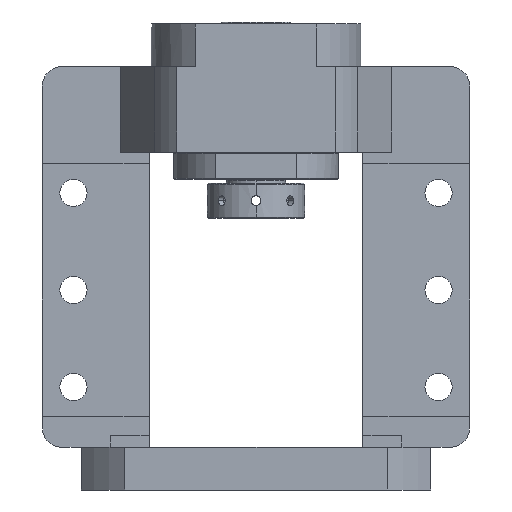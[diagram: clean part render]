
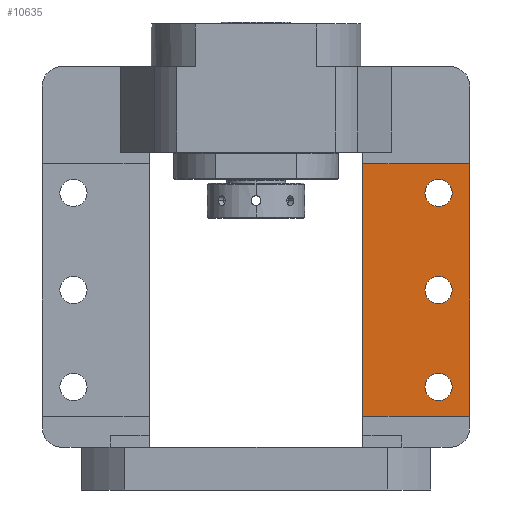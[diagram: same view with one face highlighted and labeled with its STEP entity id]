
A CAD part, front view. The second image highlights one B-rep face of the part: STEP entity #10635.
In plain terms, the highlighted planar face has unit normal (0, -1, 0).
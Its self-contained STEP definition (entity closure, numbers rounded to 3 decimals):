
#225 = EDGE_CURVE ( 'NONE', #4037, #6419, #10397, .T. ) ;
#315 = DIRECTION ( 'NONE',  ( 0., -1., 0. ) ) ;
#774 = CARTESIAN_POINT ( 'NONE',  ( 94., 0., 53. ) ) ;
#1093 = FACE_BOUND ( 'NONE', #3105, .T. ) ;
#1331 = CARTESIAN_POINT ( 'NONE',  ( 110., 0., 225. ) ) ;
#1336 = AXIS2_PLACEMENT_3D ( 'NONE', #8170, #315, #1907 ) ;
#1348 = CIRCLE ( 'NONE', #4559, 7. ) ;
#1547 = EDGE_LOOP ( 'NONE', ( #12876, #13922 ) ) ;
#1552 = VECTOR ( 'NONE', #2577, 1000. ) ;
#1907 = DIRECTION ( 'NONE',  ( 0., 0., -1. ) ) ;
#2365 = DIRECTION ( 'NONE',  ( 0., 0., -1. ) ) ;
#2577 = DIRECTION ( 'NONE',  ( 1., 0., 0. ) ) ;
#2650 = EDGE_CURVE ( 'NONE', #6419, #4037, #13797, .T. ) ;
#2737 = VERTEX_POINT ( 'NONE', #11091 ) ;
#2925 = DIRECTION ( 'NONE',  ( 0., 0., -1. ) ) ;
#3054 = CARTESIAN_POINT ( 'NONE',  ( 55., 0., 225. ) ) ;
#3105 = EDGE_LOOP ( 'NONE', ( #12796, #19882 ) ) ;
#3164 = EDGE_CURVE ( 'NONE', #13531, #4397, #16684, .T. ) ;
#3180 = VECTOR ( 'NONE', #2925, 1000. ) ;
#3365 = CIRCLE ( 'NONE', #12070, 7. ) ;
#4037 = VERTEX_POINT ( 'NONE', #19604 ) ;
#4311 = EDGE_CURVE ( 'NONE', #11312, #14772, #7362, .T. ) ;
#4397 = VERTEX_POINT ( 'NONE', #18780 ) ;
#4559 = AXIS2_PLACEMENT_3D ( 'NONE', #4595, #15561, #6158 ) ;
#4595 = CARTESIAN_POINT ( 'NONE',  ( 94., 0., 153. ) ) ;
#5436 = CARTESIAN_POINT ( 'NONE',  ( 94., 0., 153. ) ) ;
#5450 = ORIENTED_EDGE ( 'NONE', *, *, #8043, .T. ) ;
#5679 = VERTEX_POINT ( 'NONE', #11079 ) ;
#6056 = VERTEX_POINT ( 'NONE', #10174 ) ;
#6158 = DIRECTION ( 'NONE',  ( 0., 0., -1. ) ) ;
#6273 = CARTESIAN_POINT ( 'NONE',  ( 110., 0., 168. ) ) ;
#6419 = VERTEX_POINT ( 'NONE', #16973 ) ;
#7011 = DIRECTION ( 'NONE',  ( 0., 0., -1. ) ) ;
#7028 = EDGE_CURVE ( 'NONE', #16930, #5679, #16403, .T. ) ;
#7362 = LINE ( 'NONE', #1331, #3180 ) ;
#7715 = DIRECTION ( 'NONE',  ( 0., -1., 0. ) ) ;
#8043 = EDGE_CURVE ( 'NONE', #11312, #6056, #11263, .T. ) ;
#8170 = CARTESIAN_POINT ( 'NONE',  ( 94., 0., 103. ) ) ;
#8279 = VECTOR ( 'NONE', #12481, 1000. ) ;
#8381 = AXIS2_PLACEMENT_3D ( 'NONE', #17770, #8433, #19324 ) ;
#8433 = DIRECTION ( 'NONE',  ( 0., -1., 0. ) ) ;
#8745 = DIRECTION ( 'NONE',  ( 0., -1., 0. ) ) ;
#8982 = EDGE_CURVE ( 'NONE', #4397, #13531, #3365, .T. ) ;
#9473 = FACE_BOUND ( 'NONE', #12909, .T. ) ;
#9884 = CARTESIAN_POINT ( 'NONE',  ( 110., 0., 38. ) ) ;
#10174 = CARTESIAN_POINT ( 'NONE',  ( 55., 0., 168. ) ) ;
#10216 = EDGE_CURVE ( 'NONE', #5679, #16930, #1348, .T. ) ;
#10221 = DIRECTION ( 'NONE',  ( -1., 0., 0. ) ) ;
#10397 = CIRCLE ( 'NONE', #1336, 7. ) ;
#10414 = CARTESIAN_POINT ( 'NONE',  ( 110., 0., 38. ) ) ;
#10514 = AXIS2_PLACEMENT_3D ( 'NONE', #5436, #16388, #7011 ) ;
#10635 = ADVANCED_FACE ( 'NONE', ( #9473, #17288, #1093, #13176 ), #16232, .T. ) ;
#11079 = CARTESIAN_POINT ( 'NONE',  ( 94., 0., 160. ) ) ;
#11091 = CARTESIAN_POINT ( 'NONE',  ( 55., 0., 38. ) ) ;
#11263 = LINE ( 'NONE', #19517, #19018 ) ;
#11312 = VERTEX_POINT ( 'NONE', #6273 ) ;
#11410 = ORIENTED_EDGE ( 'NONE', *, *, #4311, .F. ) ;
#11799 = DIRECTION ( 'NONE',  ( 0., -1., 0. ) ) ;
#12070 = AXIS2_PLACEMENT_3D ( 'NONE', #774, #11799, #2365 ) ;
#12462 = LINE ( 'NONE', #3054, #8279 ) ;
#12481 = DIRECTION ( 'NONE',  ( 0., 0., -1. ) ) ;
#12705 = ORIENTED_EDGE ( 'NONE', *, *, #7028, .F. ) ;
#12796 = ORIENTED_EDGE ( 'NONE', *, *, #225, .F. ) ;
#12876 = ORIENTED_EDGE ( 'NONE', *, *, #8982, .F. ) ;
#12909 = EDGE_LOOP ( 'NONE', ( #12705, #14224 ) ) ;
#13176 = FACE_OUTER_BOUND ( 'NONE', #20213, .T. ) ;
#13531 = VERTEX_POINT ( 'NONE', #17184 ) ;
#13797 = CIRCLE ( 'NONE', #18278, 7. ) ;
#13922 = ORIENTED_EDGE ( 'NONE', *, *, #3164, .F. ) ;
#14224 = ORIENTED_EDGE ( 'NONE', *, *, #10216, .F. ) ;
#14562 = ORIENTED_EDGE ( 'NONE', *, *, #16697, .T. ) ;
#14772 = VERTEX_POINT ( 'NONE', #9884 ) ;
#14806 = AXIS2_PLACEMENT_3D ( 'NONE', #18071, #8745, #19619 ) ;
#15561 = DIRECTION ( 'NONE',  ( 0., -1., 0. ) ) ;
#16232 = PLANE ( 'NONE',  #8381 ) ;
#16388 = DIRECTION ( 'NONE',  ( 0., -1., 0. ) ) ;
#16403 = CIRCLE ( 'NONE', #10514, 7. ) ;
#16684 = CIRCLE ( 'NONE', #14806, 7. ) ;
#16697 = EDGE_CURVE ( 'NONE', #6056, #2737, #12462, .T. ) ;
#16930 = VERTEX_POINT ( 'NONE', #19033 ) ;
#16973 = CARTESIAN_POINT ( 'NONE',  ( 94., 0., 110. ) ) ;
#17077 = CARTESIAN_POINT ( 'NONE',  ( 94., 0., 103. ) ) ;
#17184 = CARTESIAN_POINT ( 'NONE',  ( 94., 0., 60. ) ) ;
#17288 = FACE_BOUND ( 'NONE', #1547, .T. ) ;
#17770 = CARTESIAN_POINT ( 'NONE',  ( 110., 0., 225. ) ) ;
#18071 = CARTESIAN_POINT ( 'NONE',  ( 94., 0., 53. ) ) ;
#18207 = LINE ( 'NONE', #10414, #1552 ) ;
#18278 = AXIS2_PLACEMENT_3D ( 'NONE', #17077, #7715, #18616 ) ;
#18616 = DIRECTION ( 'NONE',  ( 0., 0., -1. ) ) ;
#18780 = CARTESIAN_POINT ( 'NONE',  ( 94., 0., 46. ) ) ;
#19018 = VECTOR ( 'NONE', #10221, 1000. ) ;
#19033 = CARTESIAN_POINT ( 'NONE',  ( 94., 0., 146. ) ) ;
#19324 = DIRECTION ( 'NONE',  ( 0., 0., -1. ) ) ;
#19516 = EDGE_CURVE ( 'NONE', #2737, #14772, #18207, .T. ) ;
#19517 = CARTESIAN_POINT ( 'NONE',  ( 110., 0., 168. ) ) ;
#19604 = CARTESIAN_POINT ( 'NONE',  ( 94., 0., 96. ) ) ;
#19619 = DIRECTION ( 'NONE',  ( 0., 0., -1. ) ) ;
#19693 = ORIENTED_EDGE ( 'NONE', *, *, #19516, .T. ) ;
#19882 = ORIENTED_EDGE ( 'NONE', *, *, #2650, .F. ) ;
#20213 = EDGE_LOOP ( 'NONE', ( #11410, #5450, #14562, #19693 ) ) ;
